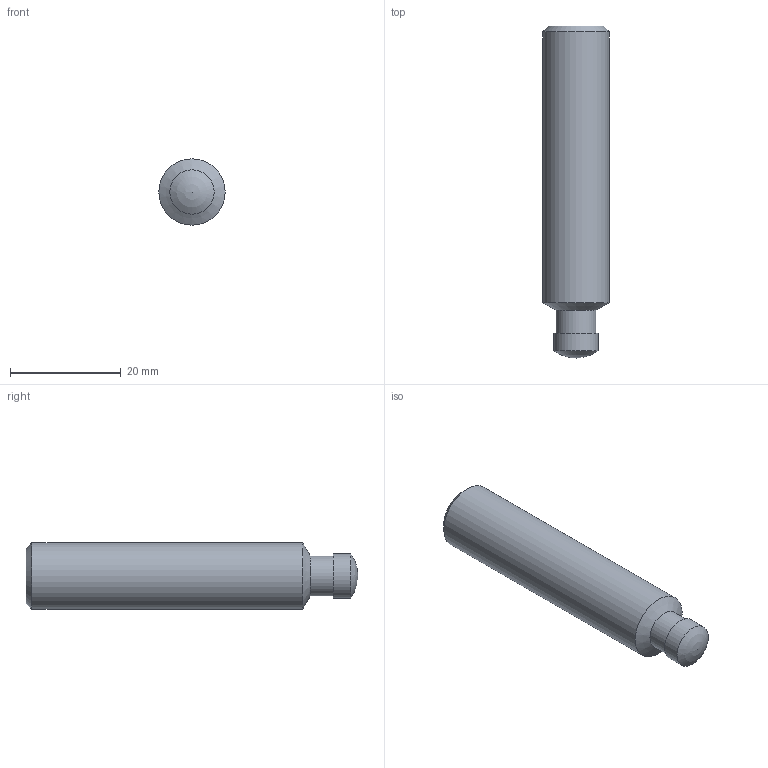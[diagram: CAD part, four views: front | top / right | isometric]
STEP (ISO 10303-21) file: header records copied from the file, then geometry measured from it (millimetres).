
FILE_DESCRIPTION( ( 'STEP AP203' ), '1' );
FILE_NAME( 'C:/Temp/Ganter_Step_05_03_2020/data/3_2/din6332/din6332_ni/Stainless Steel-Grub screw DIN 6332-M12-60-SKN-NI.stp', '2020-03-13T05:16:43', ( 'License CC BY-ND 4.0' ), ( 'CADENAS' ), ' ', 'PARTsolutions', ' ' );
FILE_SCHEMA( ( 'CONFIG_CONTROL_DESIGN' ) );
Length unit declared in the file: millimetre
Products named in the file (1): _Stainless Steel-Grub screw DIN 6332-M12-60-SKN-NI
Bounding box: 12 x 60 x 12 mm (x, y, z)
Volume: 5974 mm3; surface area: 2378 mm2
Topology: 1 solids, 1 shells, 15 faces, 33 edges, 21 vertices
Faces by surface type: plane 9, cylinder 3, cone 2, sphere 1
Full cylindrical faces by diameter (mm): 7.2 x1, 8 x1, 12 x1
Entity records: 410 total; most frequent: DIRECTION 64, CARTESIAN_POINT 61, ORIENTED_EDGE 50, EDGE_CURVE 25, AXIS2_PLACEMENT_3D 23, EDGE_LOOP 22, VERTEX_POINT 20, FACE_OUTER_BOUND 18
